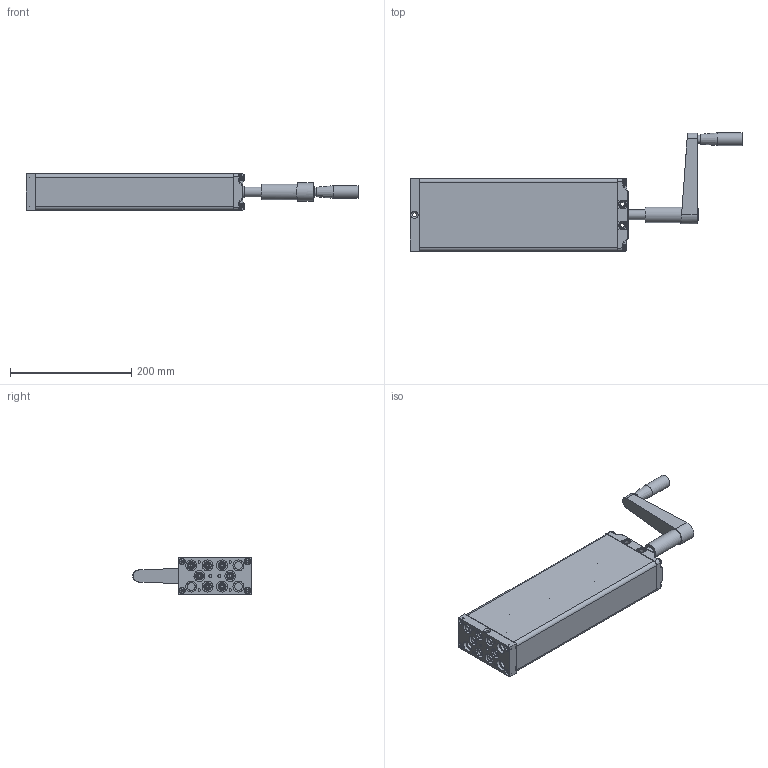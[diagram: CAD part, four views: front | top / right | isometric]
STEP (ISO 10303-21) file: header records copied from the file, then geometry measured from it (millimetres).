
FILE_DESCRIPTION(/* description */ ('Unknown'),/* implementation_level */ '2;1');
FILE_NAME(/* name */ '312.20262 Pumpe PB 7820 W mit Handkurbel',/* time_stamp */ '2016-11-25T10:15:34+01:00',/* author */ ('Unknown'),/* organization */ ('Unknown'),/* preprocessor_version */ 'ST-DEVELOPER v16.7',/* originating_system */ 'DEX',/* authorisation */ $);
FILE_SCHEMA (('AUTOMOTIVE_DESIGN {1 0 10303 214 3 1 1}'));
Products named in the file (23): 102.20262; 115.10032; 125.00061; 115.00008; 142.00021; 125.00021; 113.00005; 128.00001; 125.00052; 126.00013; 125.00053; 127.00014; Handgriff; 142.00013; 125.00142; 115.00140; 126.00006; 122.00040; 119.00042; 126.00036; 142.00057; 142.00083; 142.00017
Assembly tree (39 placements, depth 3):
  102.20262
    115.10032  x7
      125.00061
      115.00008
      142.00021
      125.00021
    113.00005
      128.00001
      125.00052
      126.00013
      125.00053
      127.00014
      Handgriff
    142.00013  x8
    125.00142
    115.00140
      126.00006
      122.00040
    119.00042
    126.00036
    142.00057
    142.00083  x4
    142.00017  x2
Bounding box: 548.75 x 195.5 x 60.3 mm (x, y, z)
Volume: 658906 mm3; surface area: 385127.3 mm2
Topology: 47 solids, 47 shells, 2184 faces, 4963 edges, 2903 vertices
Faces by surface type: plane 791, cylinder 497, bspline 380, cone 351, torus 108, sphere 57
Full cylindrical faces by diameter (mm): 3.5 x7, 4 x2, 4.1 x7, 4.134 x4, 4.2 x8, 4.917 x4, 5 x12, 5.8 x4, 6 x2, 6.8 x1, 6.917 x14, 8 x16, 8.5 x4, 9.8 x8, 10 x6, 10.4 x1, 10.5 x4, 12.5 x7, 12.8 x1, 13 x25, 14 x1, 14.4 x7, 16 x2, 17 x1, 17.9 x14, 18 x11, 19 x1, 20.6 x1, 21 x1, 22 x1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
Entity records: 64061 total; most frequent: CARTESIAN_POINT 30506, ORIENTED_EDGE 5368, DIRECTION 4817, EDGE_CURVE 2684, AXIS2_PLACEMENT_3D 1875, VERTEX_POINT 1709, FACE_BOUND 1541, EDGE_LOOP 1538
